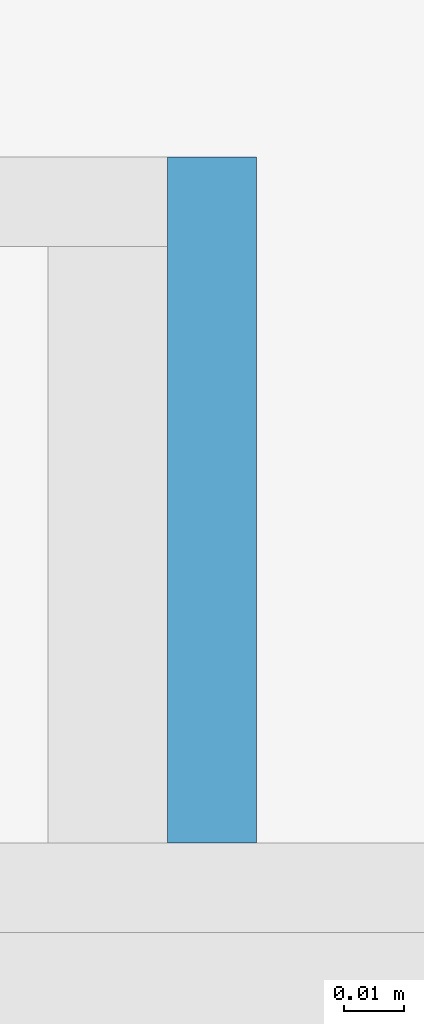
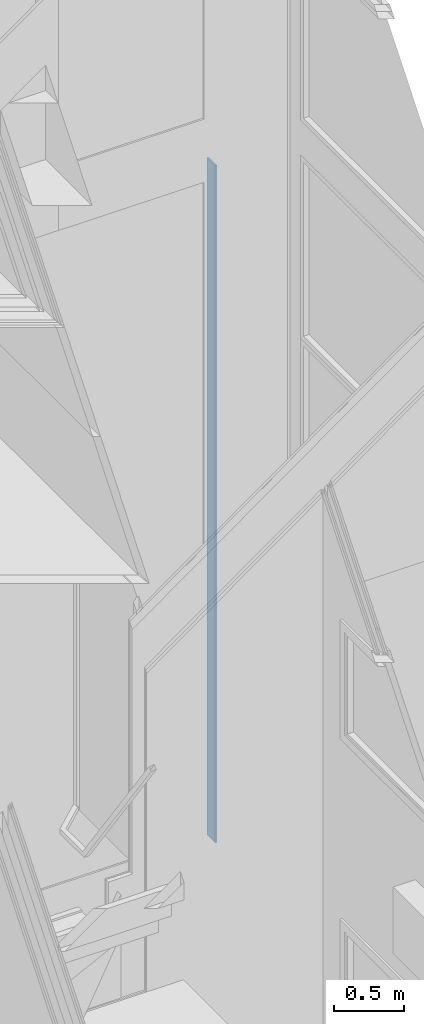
# One storey, part 293 of 583: 1 slab.
"""IFC2X3 building model written with IfcOpenShell, lengths in metres."""

from ifc_helpers import new_model, entity, si_unit, converted_unit, derived_unit, money_unit, direction, frame, origin_with_axes, place, context, subcontext, project, spatial, faceted_brep, material, type_object, element, save


model = new_model("IFC2X3")

# Units and contexts
model_context = context("Model", 3, precision=1e-05, world=origin_with_axes(), true_north=direction((0.0, 1.0)))
body_context = subcontext(model_context, "Body", "Model", "MODEL_VIEW", scale=1.0)
ifc_project = project(units=[si_unit("LENGTHUNIT", "METRE"), si_unit("AREAUNIT", "SQUARE_METRE"), si_unit("VOLUMEUNIT", "CUBIC_METRE"), si_unit("ABSORBEDDOSEUNIT", "GRAY"), si_unit("AMOUNTOFSUBSTANCEUNIT", "MOLE"), si_unit("DOSEEQUIVALENTUNIT", "SIEVERT"), si_unit("ELECTRICCAPACITANCEUNIT", "FARAD"), si_unit("ELECTRICCHARGEUNIT", "COULOMB"), si_unit("ELECTRICCONDUCTANCEUNIT", "SIEMENS"), si_unit("ELECTRICCURRENTUNIT", "AMPERE"), si_unit("ELECTRICRESISTANCEUNIT", "OHM"), si_unit("ELECTRICVOLTAGEUNIT", "VOLT"), si_unit("ENERGYUNIT", "JOULE"), si_unit("FORCEUNIT", "NEWTON"), si_unit("FREQUENCYUNIT", "HERTZ"), si_unit("ILLUMINANCEUNIT", "LUX"), si_unit("INDUCTANCEUNIT", "HENRY"), si_unit("LUMINOUSFLUXUNIT", "LUMEN"), si_unit("LUMINOUSINTENSITYUNIT", "CANDELA"), si_unit("MAGNETICFLUXDENSITYUNIT", "TESLA"), si_unit("MAGNETICFLUXUNIT", "WEBER"), si_unit("MASSUNIT", "GRAM"), converted_unit("PLANEANGLEUNIT", "degree", entity("IfcReal", 0.0174532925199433), si_unit("PLANEANGLEUNIT", "RADIAN"), dimensions=[0, 0, 0, 0, 0, 0, 0]), si_unit("POWERUNIT", "WATT"), si_unit("PRESSUREUNIT", "PASCAL"), si_unit("RADIOACTIVITYUNIT", "BECQUEREL"), si_unit("SOLIDANGLEUNIT", "STERADIAN"), si_unit("THERMODYNAMICTEMPERATUREUNIT", "KELVIN"), si_unit("TIMEUNIT", "SECOND"), derived_unit("ACCELERATIONUNIT", [(si_unit("LENGTHUNIT", "METRE"), 1), (si_unit("TIMEUNIT", "SECOND"), -2)]), derived_unit("ANGULARVELOCITYUNIT", [(converted_unit("PLANEANGLEUNIT", "degree", entity("IfcReal", 0.0174532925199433), si_unit("PLANEANGLEUNIT", "RADIAN"), dimensions=[0, 0, 0, 0, 0, 0, 0]), 1), (si_unit("TIMEUNIT", "SECOND"), -1)]), derived_unit("CURVATUREUNIT", [(converted_unit("PLANEANGLEUNIT", "degree", entity("IfcReal", 0.0174532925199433), si_unit("PLANEANGLEUNIT", "RADIAN"), dimensions=[0, 0, 0, 0, 0, 0, 0]), 1), (si_unit("LENGTHUNIT", "METRE"), -1)]), derived_unit("DYNAMICVISCOSITYUNIT", [(si_unit("PRESSUREUNIT", "PASCAL"), 1), (si_unit("TIMEUNIT", "SECOND"), 1)]), derived_unit("HEATFLUXDENSITYUNIT", [(si_unit("POWERUNIT", "WATT"), 1), (si_unit("LENGTHUNIT", "METRE"), -2)]), derived_unit("HEATINGVALUEUNIT", [(si_unit("ENERGYUNIT", "JOULE"), 1), (si_unit("MASSUNIT", "GRAM"), -1)]), derived_unit("INTEGERCOUNTRATEUNIT", [(si_unit("TIMEUNIT", "SECOND"), -1)]), derived_unit("IONCONCENTRATIONUNIT", [(si_unit("MASSUNIT", "GRAM"), 1), (si_unit("VOLUMEUNIT", "CUBIC_METRE"), -1)]), derived_unit("ISOTHERMALMOISTURECAPACITYUNIT", [(si_unit("VOLUMEUNIT", "CUBIC_METRE"), 1), (si_unit("MASSUNIT", "GRAM"), -1)]), derived_unit("KINEMATICVISCOSITYUNIT", [(si_unit("AREAUNIT", "SQUARE_METRE"), 1), (si_unit("TIMEUNIT", "SECOND"), -1)]), derived_unit("LINEARFORCEUNIT", [(si_unit("FORCEUNIT", "NEWTON"), 1), (si_unit("LENGTHUNIT", "METRE"), -1)]), derived_unit("LINEARMOMENTUNIT", [(si_unit("FORCEUNIT", "NEWTON"), 1), (si_unit("LENGTHUNIT", "METRE"), -1)]), derived_unit("LINEARSTIFFNESSUNIT", [(si_unit("FORCEUNIT", "NEWTON"), 1), (si_unit("LENGTHUNIT", "METRE"), -1)]), derived_unit("LINEARVELOCITYUNIT", [(si_unit("LENGTHUNIT", "METRE"), 1), (si_unit("TIMEUNIT", "SECOND"), -1)]), derived_unit("LUMINOUSINTENSITYDISTRIBUTIONUNIT", [(si_unit("LUMINOUSINTENSITYUNIT", "CANDELA"), 1), (si_unit("LUMINOUSFLUXUNIT", "LUMEN"), -1)]), derived_unit("MASSDENSITYUNIT", [(si_unit("MASSUNIT", "GRAM"), 1), (si_unit("VOLUMEUNIT", "CUBIC_METRE"), -1)]), derived_unit("MASSFLOWRATEUNIT", [(si_unit("MASSUNIT", "GRAM"), 1), (si_unit("TIMEUNIT", "SECOND"), -1)]), derived_unit("MASSPERLENGTHUNIT", [(si_unit("MASSUNIT", "GRAM"), 1), (si_unit("LENGTHUNIT", "METRE"), -1)]), derived_unit("MODULUSOFELASTICITYUNIT", [(si_unit("FORCEUNIT", "NEWTON"), 1), (si_unit("AREAUNIT", "SQUARE_METRE"), -1)]), derived_unit("MODULUSOFLINEARSUBGRADEREACTIONUNIT", [(si_unit("FORCEUNIT", "NEWTON"), 1), (si_unit("LENGTHUNIT", "METRE"), -2)]), derived_unit("MODULUSOFROTATIONALSUBGRADEREACTIONUNIT", [(si_unit("FORCEUNIT", "NEWTON"), 1), (si_unit("LENGTHUNIT", "METRE"), 1)]), derived_unit("MODULUSOFSUBGRADEREACTIONUNIT", [(si_unit("FORCEUNIT", "NEWTON"), 1), (si_unit("VOLUMEUNIT", "CUBIC_METRE"), -1)]), derived_unit("MOISTUREDIFFUSIVITYUNIT", [(si_unit("VOLUMEUNIT", "CUBIC_METRE"), 1), (si_unit("TIMEUNIT", "SECOND"), -1)]), derived_unit("MOLECULARWEIGHTUNIT", [(si_unit("MASSUNIT", "GRAM"), 1), (si_unit("AMOUNTOFSUBSTANCEUNIT", "MOLE"), -1)]), derived_unit("PLANARFORCEUNIT", [(si_unit("FORCEUNIT", "NEWTON"), 1), (si_unit("LENGTHUNIT", "METRE"), -2)]), derived_unit("ROTATIONALFREQUENCYUNIT", [(si_unit("TIMEUNIT", "SECOND"), -1)]), derived_unit("ROTATIONALMASSUNIT", [(si_unit("MASSUNIT", "GRAM"), 1), (si_unit("LENGTHUNIT", "METRE"), 2)]), derived_unit("ROTATIONALSTIFFNESSUNIT", [(si_unit("FORCEUNIT", "NEWTON"), 1), (si_unit("LENGTHUNIT", "METRE"), 1), (converted_unit("PLANEANGLEUNIT", "degree", entity("IfcReal", 0.0174532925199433), si_unit("PLANEANGLEUNIT", "RADIAN"), dimensions=[0, 0, 0, 0, 0, 0, 0]), -1)]), derived_unit("SECTIONAREAINTEGRALUNIT", [(si_unit("LENGTHUNIT", "METRE"), 5)]), derived_unit("SECTIONMODULUSUNIT", [(si_unit("LENGTHUNIT", "METRE"), 3)]), derived_unit("SHEARMODULUSUNIT", [(si_unit("FORCEUNIT", "NEWTON"), 1), (si_unit("AREAUNIT", "SQUARE_METRE"), -1)]), derived_unit("SOUNDPOWERUNIT", [(si_unit("ENERGYUNIT", "JOULE"), 1), (si_unit("TIMEUNIT", "SECOND"), -1)]), derived_unit("SPECIFICHEATCAPACITYUNIT", [(si_unit("FORCEUNIT", "NEWTON"), 1), (si_unit("MASSUNIT", "GRAM"), -1), (si_unit("THERMODYNAMICTEMPERATUREUNIT", "KELVIN"), -1)]), derived_unit("TEMPERATUREGRADIENTUNIT", [(si_unit("THERMODYNAMICTEMPERATUREUNIT", "KELVIN"), 1), (si_unit("LENGTHUNIT", "METRE"), -1)]), derived_unit("THERMALADMITTANCEUNIT", [(si_unit("POWERUNIT", "WATT"), 1), (si_unit("AREAUNIT", "SQUARE_METRE"), -1), (si_unit("THERMODYNAMICTEMPERATUREUNIT", "KELVIN"), -1)]), derived_unit("THERMALCONDUCTANCEUNIT", [(si_unit("POWERUNIT", "WATT"), 1), (si_unit("LENGTHUNIT", "METRE"), -1), (si_unit("THERMODYNAMICTEMPERATUREUNIT", "KELVIN"), -1)]), derived_unit("THERMALEXPANSIONCOEFFICIENTUNIT", [(si_unit("THERMODYNAMICTEMPERATUREUNIT", "KELVIN"), -1)]), derived_unit("THERMALRESISTANCEUNIT", [(si_unit("AREAUNIT", "SQUARE_METRE"), 1), (si_unit("POWERUNIT", "WATT"), -1)]), derived_unit("THERMALTRANSMITTANCEUNIT", [(si_unit("POWERUNIT", "WATT"), 1), (si_unit("AREAUNIT", "SQUARE_METRE"), -1), (si_unit("THERMODYNAMICTEMPERATUREUNIT", "KELVIN"), -1)]), derived_unit("TORQUEUNIT", [(si_unit("FORCEUNIT", "NEWTON"), 1), (si_unit("LENGTHUNIT", "METRE"), 1)]), derived_unit("VAPORPERMEABILITYUNIT", [(si_unit("MASSUNIT", "GRAM"), 1), (si_unit("TIMEUNIT", "SECOND"), -1)]), derived_unit("VOLUMETRICFLOWRATEUNIT", [(si_unit("VOLUMEUNIT", "CUBIC_METRE"), 1), (si_unit("TIMEUNIT", "SECOND"), -1)]), derived_unit("WARPINGCONSTANTUNIT", [(si_unit("LENGTHUNIT", "METRE"), 6)]), derived_unit("WARPINGMOMENTUNIT", [(si_unit("FORCEUNIT", "NEWTON"), 1), (si_unit("LENGTHUNIT", "METRE"), 2)]), money_unit("GBP")], contexts=[model_context])

# Site, building, storey
site_placement = place(None, origin_with_axes())
site = spatial("IfcSite", under=ifc_project, at=site_placement, Name="Site", CompositionType="ELEMENT")
building_placement = place(site_placement, origin_with_axes())
building = spatial("IfcBuilding", under=site, at=building_placement, Name="Building01", CompositionType="ELEMENT")
storey_placement = place(building_placement, frame((0.0, 0.0, 20.78), z_axis=(0.0, 0.0, 1.0), x_axis=(1.0, 0.0, 0.0)))
storey = spatial("IfcBuildingStorey", under=building, at=storey_placement, Name="RL", CompositionType="ELEMENT", Elevation=20.78)

# Slab
ifc_material = material(Name="A_BSUK_CeilingSoffitFinishes_Suspended")
slab_type = type_object("IfcSlabType", Name="A-FloorsSlabs A_BSUK_Slabs", PredefinedType="FLOOR")
slab_placement = place(storey_placement, frame((0.0, 0.0, -20.78), z_axis=(0.0, 0.0, 1.0), x_axis=(1.0, 0.0, 0.0)))
element("IfcSlab", 1, at=slab_placement, inside=storey, type_object=slab_type, material=ifc_material, Name="A-FloorsSlabs A_BSUK_Slabs", ObjectType="CompoundSlabLeaf", context=body_context, shape_type="Brep", body=[
    faceted_brep([(10.8116, 20.195, 9.0), (10.8266, 20.195, 9.0), (10.8266, 20.31, 9.0), (10.8116, 20.31, 9.0), (10.8116, 20.195, 3.1), (10.8266, 20.195, 3.1), (10.8116, 20.31, 3.1), (10.8266, 20.31, 3.1)], [[[0, 1, 2, 3]], [[4, 5, 1, 0]], [[6, 7, 5, 4]], [[3, 2, 7, 6]], [[1, 5, 7, 2]], [[3, 6, 4, 0]]]),
])

save(model, "model.ifc")
